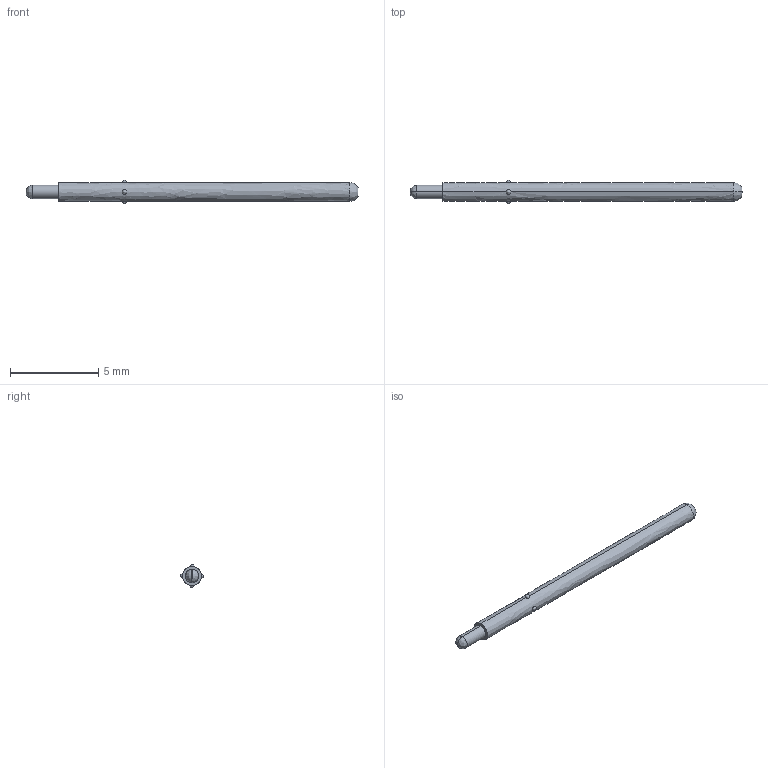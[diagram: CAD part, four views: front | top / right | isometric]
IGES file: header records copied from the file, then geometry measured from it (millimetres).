
Start section: SolidWorks IGES file using analytic representation for surfaces
Global section: file name: O:\PYLON\IGES FILES\P2663\P2663G-1R1S REC'D.IGS; native system: SolidWorks 2015; preprocessor: SolidWorks 2015; author: kgolden; date: 171019.102658; units: inch
Bounding box: 18.82 x 1.32 x 1.32 mm (x, y, z)
Surface area: 66.8 mm2 (no closed solid volume)
Topology: 0 solids, 0 shells, 21 faces, 236 edges, 220 vertices
Faces by surface type: revolution 14, bspline 7
